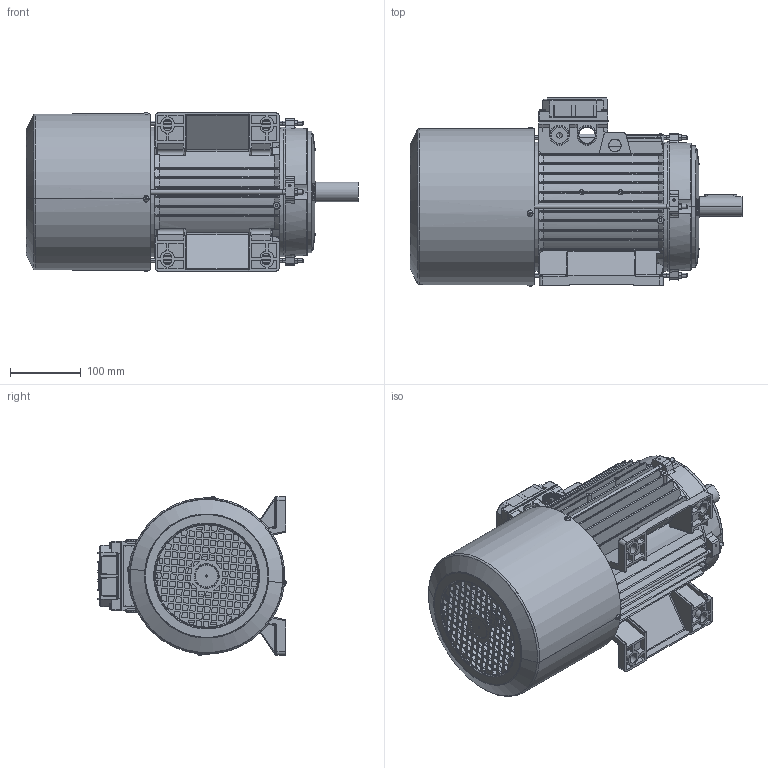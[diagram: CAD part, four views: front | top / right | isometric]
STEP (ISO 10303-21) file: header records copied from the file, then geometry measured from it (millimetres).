
FILE_DESCRIPTION (( 'STEP AP214' ), '1' );
FILE_NAME ('M14HA0012.STEP', '2019-09-20T10:20:33', ( '' ), ( '' ), 'SwSTEP 2.0', 'SolidWorks 2018', '' );
FILE_SCHEMA (( 'AUTOMOTIVE_DESIGN' ));
Length unit declared in the file: millimetre
Products named in the file (14): Guarnizione Coperchio Semplice Scatola BA 90 100 112 - DDAL0094; Vite per coperchio morsettiera; Coperchio per Scatola Singola 90 - 100 - 112; Vite testa rotonda M3; Chiavetta 100-112; Albero BM 112; Cuffia BM 112; Dado M5; Tirante SM 112; Scudo Lato Freno P1 BM 112 - DFAN0101; Scudo Lato Comando B3 BA-BM 112 - DFAD0194; Carcassa 112 B3; M14HA0012; Coperchio per Scatola Singola 90 - 100 - 112 con viti
Assembly tree (25 placements, depth 3):
  M14HA0012
    Carcassa 112 B3
    Scudo Lato Comando B3 BA-BM 112 - DFAD0194
    Scudo Lato Freno P1 BM 112 - DFAN0101
    Tirante SM 112  x4
    Dado M5  x4
    Cuffia BM 112
    Albero BM 112
    Chiavetta 100-112
    Vite testa rotonda M3  x4
    Coperchio per Scatola Singola 90 - 100 - 112 con viti
      Coperchio per Scatola Singola 90 - 100 - 112
      Vite per coperchio morsettiera  x4
      Guarnizione Coperchio Semplice Scatola BA 90 100 112 - DDAL0094
Bounding box: 470.25 x 266.56 x 225.12 mm (x, y, z)
Volume: 2114083.1 mm3; surface area: 1158981.9 mm2
Topology: 28 solids, 28 shells, 4222 faces, 11540 edges, 7407 vertices
Faces by surface type: cylinder 1571, plane 1540, bspline 443, torus 340, cone 320, sphere 8
Entity records: 144272 total; most frequent: CARTESIAN_POINT 50549, ORIENTED_EDGE 20642, DIRECTION 17853, EDGE_CURVE 10321, VERTEX_POINT 6669, AXIS2_PLACEMENT_3D 6571, VECTOR 4711, LINE 4711
